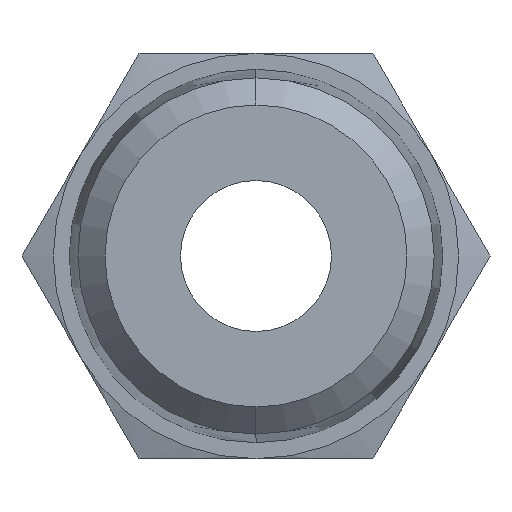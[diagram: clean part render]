
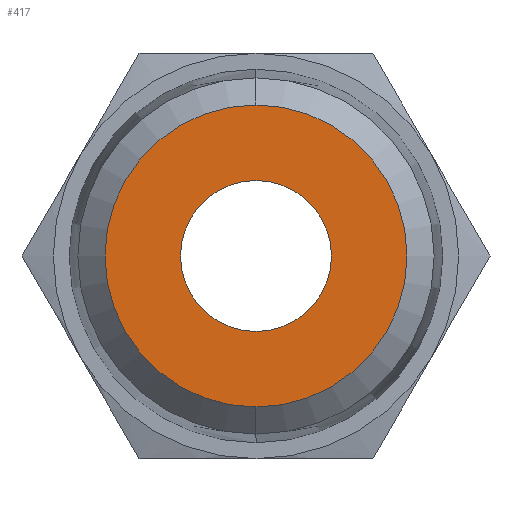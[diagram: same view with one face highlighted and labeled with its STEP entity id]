
A CAD part, left-side view. The second image highlights one B-rep face of the part: STEP entity #417.
In plain terms, the highlighted planar face has unit normal (-1, 0, 0).
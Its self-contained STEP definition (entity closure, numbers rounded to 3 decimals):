
#73 = EDGE_CURVE ( 'NONE', #74, #75, #749, .T. ) ;
#74 = VERTEX_POINT ( 'NONE', #811 ) ;
#75 = VERTEX_POINT ( 'NONE', #810 ) ;
#91 = VERTEX_POINT ( 'NONE', #849 ) ;
#92 = VERTEX_POINT ( 'NONE', #848 ) ;
#96 = EDGE_CURVE ( 'NONE', #91, #92, #843, .T. ) ;
#256 = ORIENTED_EDGE ( 'NONE', *, *, #360, .F. ) ;
#360 = EDGE_CURVE ( 'NONE', #92, #91, #1327, .T. ) ;
#416 = EDGE_LOOP ( 'NONE', ( #418, #420 ) ) ;
#417 = ADVANCED_FACE ( 'NONE', ( #1454, #1449 ), #1448, .T. ) ;
#418 = ORIENTED_EDGE ( 'NONE', *, *, #419, .T. ) ;
#419 = EDGE_CURVE ( 'NONE', #75, #74, #1446, .T. ) ;
#420 = ORIENTED_EDGE ( 'NONE', *, *, #73, .T. ) ;
#421 = EDGE_LOOP ( 'NONE', ( #422, #256 ) ) ;
#422 = ORIENTED_EDGE ( 'NONE', *, *, #96, .F. ) ;
#748 = AXIS2_PLACEMENT_3D ( 'NONE', #814, #813, #812 ) ;
#749 = CIRCLE ( 'NONE', #748, 7.096 ) ;
#810 = CARTESIAN_POINT ( 'NONE',  ( -14., 0., -7.096 ) ) ;
#811 = CARTESIAN_POINT ( 'NONE',  ( -14., 0., 7.096 ) ) ;
#812 = DIRECTION ( 'NONE',  ( 0., 0., 1. ) ) ;
#813 = DIRECTION ( 'NONE',  ( -1., 0., 0. ) ) ;
#814 = CARTESIAN_POINT ( 'NONE',  ( -14., 0., 0. ) ) ;
#839 = DIRECTION ( 'NONE',  ( 0., 0., 1. ) ) ;
#840 = DIRECTION ( 'NONE',  ( -1., 0., 0. ) ) ;
#841 = CARTESIAN_POINT ( 'NONE',  ( -14., 0., 0. ) ) ;
#842 = AXIS2_PLACEMENT_3D ( 'NONE', #841, #840, #839 ) ;
#843 = CIRCLE ( 'NONE', #842, 3.55 ) ;
#848 = CARTESIAN_POINT ( 'NONE',  ( -14., 0., 3.55 ) ) ;
#849 = CARTESIAN_POINT ( 'NONE',  ( -14., 0., -3.55 ) ) ;
#1323 = DIRECTION ( 'NONE',  ( 0., 0., 1. ) ) ;
#1324 = DIRECTION ( 'NONE',  ( -1., 0., 0. ) ) ;
#1325 = CARTESIAN_POINT ( 'NONE',  ( -14., 0., 0. ) ) ;
#1326 = AXIS2_PLACEMENT_3D ( 'NONE', #1325, #1324, #1323 ) ;
#1327 = CIRCLE ( 'NONE', #1326, 3.55 ) ;
#1439 = DIRECTION ( 'NONE',  ( 0., 0., 1. ) ) ;
#1440 = DIRECTION ( 'NONE',  ( -1., 0., 0. ) ) ;
#1441 = CARTESIAN_POINT ( 'NONE',  ( -14., 0., 0. ) ) ;
#1442 = AXIS2_PLACEMENT_3D ( 'NONE', #1441, #1440, #1439 ) ;
#1443 = DIRECTION ( 'NONE',  ( 0., 0., 1. ) ) ;
#1444 = DIRECTION ( 'NONE',  ( -1., 0., 0. ) ) ;
#1445 = AXIS2_PLACEMENT_3D ( 'NONE', #1447, #1444, #1443 ) ;
#1446 = CIRCLE ( 'NONE', #1442, 7.096 ) ;
#1447 = CARTESIAN_POINT ( 'NONE',  ( -14., 0., 0. ) ) ;
#1448 = PLANE ( 'NONE',  #1445 ) ;
#1449 = FACE_BOUND ( 'NONE', #421, .T. ) ;
#1454 = FACE_OUTER_BOUND ( 'NONE', #416, .T. ) ;
